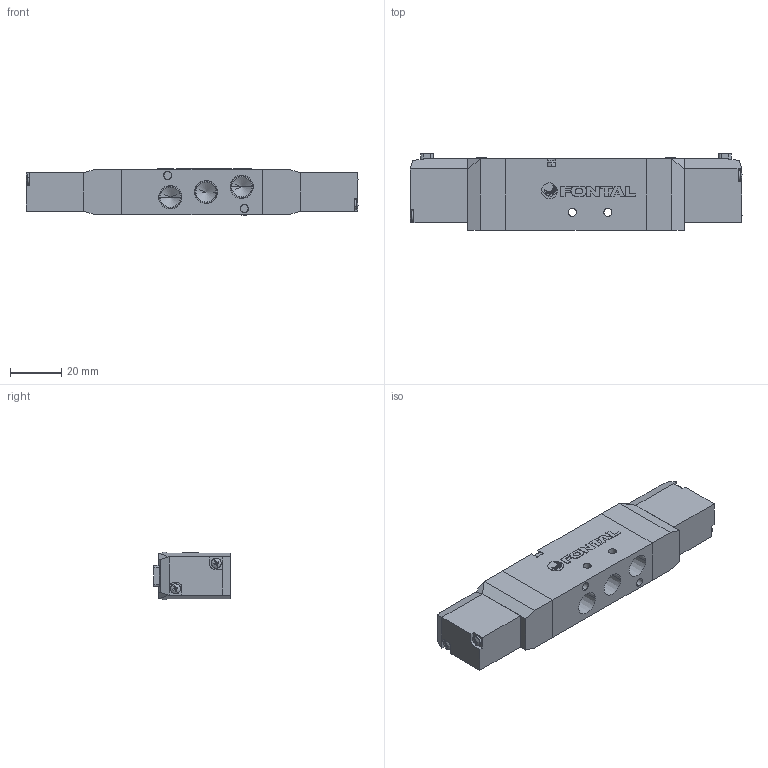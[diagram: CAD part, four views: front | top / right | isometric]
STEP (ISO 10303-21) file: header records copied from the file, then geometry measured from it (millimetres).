
FILE_DESCRIPTION (( 'STEP AP203' ), '1' );
FILE_NAME ('RCD(E¡BO)3413-01-#-L-#.STEP', '2016-02-04T03:56:33', ( 'Sam Lin' ), ( '' ), 'SwSTEP 2.0', 'SolidWorks 2013', '' );
FILE_SCHEMA (( 'CONFIG_CONTROL_DESIGN' ));
Length unit declared in the file: metre
Products named in the file (8): ISO 7045 - M2 x 10; PC13-6; PC5-6; ISO 7045 - M3 x 20; PC13-3-3413-B; RCD(E、O)3413-01-#-L-#; PC13-MARK; PC13-5
Assembly tree (14 placements, depth 2):
  RCD(E、O)3413-01-#-L-#
    PC13-MARK
    PC13-5  x2
    ISO 7045 - M2 x 10  x4
    PC13-6  x2
    PC5-6  x2
    ISO 7045 - M3 x 20  x2
    PC13-3-3413-B
Bounding box: 130.14 x 30 x 18.6 mm (x, y, z)
Volume: 54713.6 mm3; surface area: 20134.3 mm2
Topology: 20 solids, 20 shells, 524 faces, 1273 edges, 789 vertices
Faces by surface type: plane 290, cylinder 104, cone 86, bspline 44
Entity records: 9912 total; most frequent: CARTESIAN_POINT 2054, DIRECTION 1412, ORIENTED_EDGE 1412, EDGE_CURVE 706, AXIS2_PLACEMENT_3D 500, VERTEX_POINT 454, LINE 412, VECTOR 412
